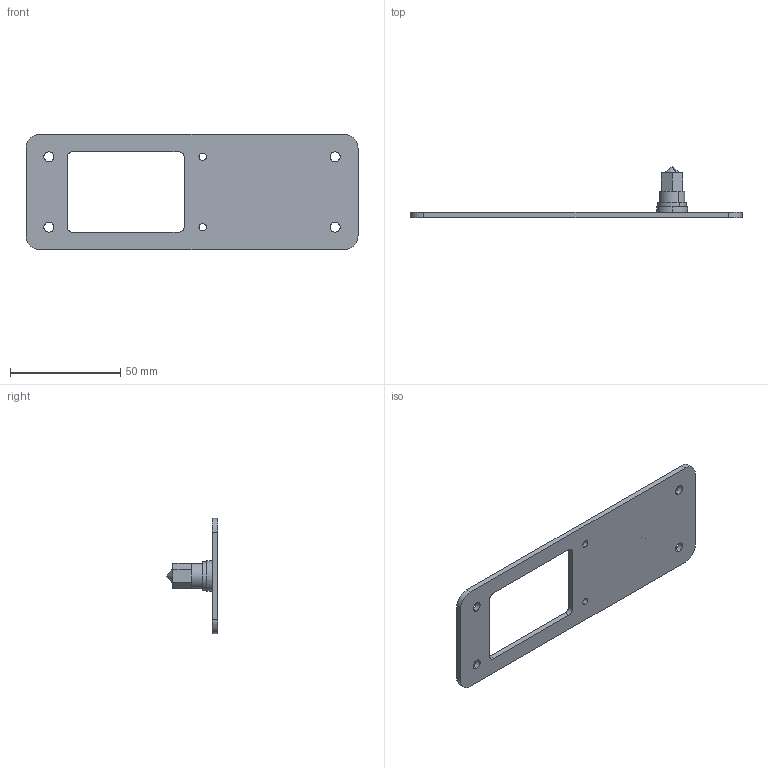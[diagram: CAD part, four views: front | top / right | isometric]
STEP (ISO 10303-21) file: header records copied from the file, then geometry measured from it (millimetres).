
FILE_DESCRIPTION (( 'STEP AP203' ), '1' );
FILE_NAME ('34429.step', '2013-04-12T12:36:53', ( '' ), ( '' ), 'SwSTEP 2.0', 'SolidWorks 2010', '' );
FILE_SCHEMA (( 'CONFIG_CONTROL_DESIGN' ));
Length unit declared in the file: inch
Products named in the file (6): 34429; 87954801; 45138102; 60100041_60100041; 87931527_87931527; 87931368_SLEEVE
Assembly tree (5 placements, depth 4):
  34429
    87954801
      45138102
      60100041_60100041
        87931368_SLEEVE
        87931527_87931527
Bounding box: 150.83 x 23.44 x 52.37 mm (x, y, z)
Volume: 16065.8 mm3; surface area: 15320.8 mm2
Topology: 3 solids, 3 shells, 108 faces, 264 edges, 168 vertices
Faces by surface type: plane 62, cylinder 40, cone 6
Entity records: 3826 total; most frequent: DIRECTION 586, CARTESIAN_POINT 546, ORIENTED_EDGE 520, EDGE_CURVE 260, AXIS2_PLACEMENT_3D 208, LINE 170, VECTOR 170, VERTEX_POINT 168
